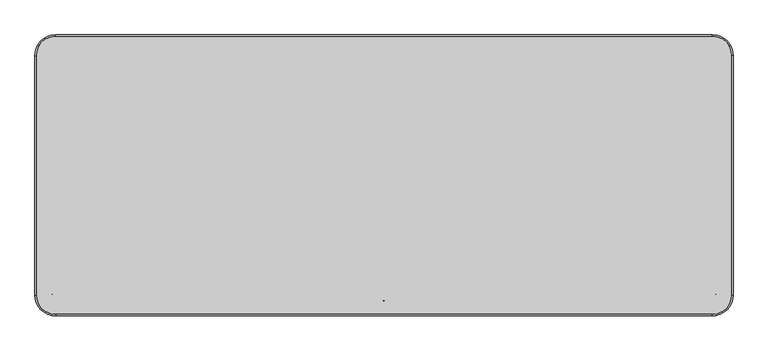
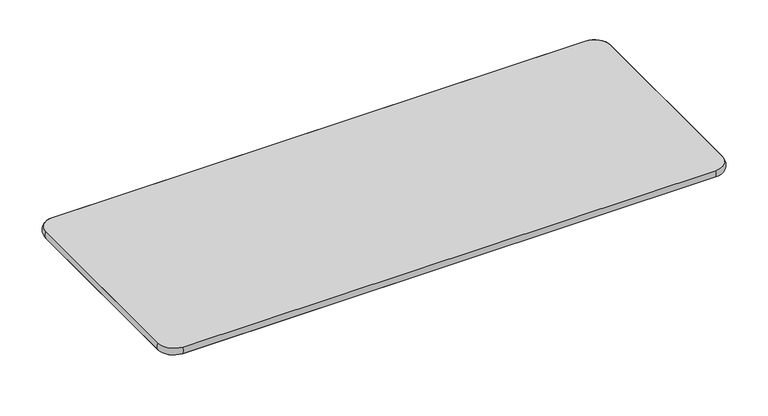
"""IFC4 building model written with IfcOpenShell, lengths in millimetres: furniture geometry, Mesa para refeitório : Mesa para refeitório 150x60cm cód 70470.6."""

from ifc_helpers import new_model, si_unit, point, frame, frame_2d, origin, place, context, project, spatial, polyline, circle_curve, ellipse_curve, trimmed, segment, composite_curve, outline, extrude, source, transform, mapped, element, save
from ifc_brep_helpers import plane_surface, cylinder_surface, revolved_surface, advanced_brep


def furniture_b150109e(model_context):
    return source(origin(), model_context, "Body", "SolidModel", [
        extrude(outline(composite_curve([segment(polyline([(-655.6618953, -42.5875081), (-717.0206397, -256.5708799), (-729.5170418, -252.9875943)]), True, "CONTINUOUS"), segment(trimmed(circle_curve(frame_2d((-728.138855, -248.1812858)), 5.0), [point((-729.5170418, -252.9875943))], [point((-732.9451635, -246.803099))], False, "CARTESIAN"), True, "CONTINUOUS"), segment(polyline([(-732.9451635, -246.803099), (-674.3872851, -42.5875081), (-655.6618953, -42.5875081)]), True, "CONTINUOUS")], self_intersect=False)), frame((0.0, 0.0, 740.0), z_axis=(0.0, 0.0, 1.0), x_axis=(1.0, 0.0, 0.0)), (0.0, 0.0, 1.0), 2.0),
        extrude(outline(composite_curve([segment(polyline([(655.6618953, 42.5875081), (717.0206397, 256.5708799), (729.5170418, 252.9875943)]), True, "CONTINUOUS"), segment(trimmed(circle_curve(frame_2d((728.138855, 248.1812858)), 5.0), [point((729.5170418, 252.9875943))], [point((732.9451635, 246.803099))], False, "CARTESIAN"), True, "CONTINUOUS"), segment(polyline([(732.9451635, 246.803099), (674.3872851, 42.5875081), (655.6618953, 42.5875081)]), True, "CONTINUOUS")], self_intersect=False)), frame((0.0, 0.0, 740.0), z_axis=(0.0, 0.0, 1.0), x_axis=(1.0, 0.0, 0.0)), (0.0, 0.0, 1.0), 2.0),
        extrude(outline(composite_curve([segment(polyline([(655.6618953, -42.5875081), (674.3872851, -42.5875081), (732.9451635, -246.803099)]), True, "CONTINUOUS"), segment(trimmed(circle_curve(frame_2d((728.138855, -248.1812858)), 5.0), [point((732.9451635, -246.803099))], [point((729.5170418, -252.9875943))], False, "CARTESIAN"), True, "CONTINUOUS"), segment(polyline([(729.5170418, -252.9875943), (717.0206397, -256.5708799), (655.6618953, -42.5875081)]), True, "CONTINUOUS")], self_intersect=False)), frame((0.0, 0.0, 740.0), z_axis=(0.0, 0.0, 1.0), x_axis=(1.0, 0.0, 0.0)), (0.0, 0.0, 1.0), 2.0),
        extrude(outline(composite_curve([segment(polyline([(655.6618953, -42.5875081), (673.7270534, -42.5875081), (673.7270534, -140.8530223)]), True, "CONTINUOUS"), segment(trimmed(circle_curve(frame_2d((668.7270534, -140.8530223)), 5.0), [point((673.7270534, -140.8530223))], [point((668.7270534, -145.8530223))], False, "CARTESIAN"), True, "CONTINUOUS"), segment(polyline([(668.7270534, -145.8530223), (655.6618953, -145.8530223), (655.6618953, -42.5875081)]), True, "CONTINUOUS")], self_intersect=False)), frame((0.0, 0.0, 740.0), z_axis=(0.0, 0.0, 1.0), x_axis=(1.0, 0.0, 0.0)), (0.0, 0.0, 1.0), 2.0),
        extrude(outline(polyline([(-649.6955742, 28.681337), (-649.6955742, -28.681337), (-651.5529394, -28.1300623), (-651.5529394, 28.1300623), (-649.6955742, 28.681337)])), frame((0.0, 0.0, 682.0), z_axis=(0.0, 0.0, 1.0), x_axis=(1.0, 0.0, 0.0)), (0.0, 0.0, 1.0), 60.0),
        extrude(outline(composite_curve([segment(polyline([(-60.1181829, 0.0), (0.0, 0.0), (0.0, -229.4943371)]), True, "CONTINUOUS"), segment(trimmed(circle_curve(frame_2d((-8.0489664, -229.4943371)), 8.0489664), [point((0.0, -229.4943371))], [point((-15.3438074, -232.8959773))], False, "CARTESIAN"), True, "CONTINUOUS"), segment(polyline([(-15.3438074, -232.8959773), (-60.1181829, 0.0)]), True, "CONTINUOUS")], self_intersect=False)), frame((-649.6955742, -28.681337, 742.0), z_axis=(-0.961261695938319, 0.2756373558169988, 0.0), x_axis=(0.0, 0.0, 1.0)), (0.0, 0.0, 1.0), 1.932216),
        extrude(outline(composite_curve([segment(polyline([(60.1181829, 0.0), (15.3438074, -232.8959773)]), True, "CONTINUOUS"), segment(trimmed(circle_curve(frame_2d((8.0489664, -229.4943371)), 8.0489664), [point((15.3438074, -232.8959773))], [point((0.0, -229.4943371))], False, "CARTESIAN"), True, "CONTINUOUS"), segment(polyline([(0.0, -229.4943371), (0.0, 0.0), (60.1181829, 0.0)]), True, "CONTINUOUS")], self_intersect=False)), frame((651.5162894, 28.1300623, 742.0), z_axis=(-0.961261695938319, 0.2756373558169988, 0.0), x_axis=(0.0, 0.0, -1.0)), (0.0, 0.0, 1.0), 2.0),
        extrude(outline(polyline([(649.593766, 28.681337), (651.5162894, 28.1300623), (651.5162894, -28.1300623), (649.593766, -28.681337), (649.593766, 28.681337)])), frame((0.0, 0.0, 682.0), z_axis=(0.0, 0.0, 1.0), x_axis=(1.0, 0.0, 0.0)), (0.0, 0.0, 1.0), 60.0),
        extrude(outline(composite_curve([segment(polyline([(-2.0, -20.0), (-2.0, -266.247878), (-15.0, -266.247878)]), True, "CONTINUOUS"), segment(trimmed(circle_curve(frame_2d((-15.0, -261.247878)), 5.0), [point((-15.0, -266.247878))], [point((-20.0, -261.247878))], False, "CARTESIAN"), True, "CONTINUOUS"), segment(polyline([(-20.0, -261.247878), (-20.0, -20.0), (-2.0, -20.0)]), True, "CONTINUOUS")], self_intersect=False)), frame((0.0, 0.0, 740.0), z_axis=(0.0, 0.0, 1.0), x_axis=(1.0, 0.0, 0.0)), (0.0, 0.0, 1.0), 2.0),
        extrude(outline(composite_curve([segment(polyline([(-20.0, 683.2373612), (-266.247878, 726.6561926)]), True, "CONTINUOUS"), segment(trimmed(circle_curve(frame_2d((-262.8462378, 733.9510336)), 8.0489664), [point((-266.247878, 726.6561926))], [point((-262.8462378, 742.0))], False, "CARTESIAN"), True, "CONTINUOUS"), segment(polyline([(-262.8462378, 742.0), (-20.0, 742.0), (-20.0, 683.2373612)]), True, "CONTINUOUS")], self_intersect=False)), frame((-2.0, 0.0, 0.0), z_axis=(1.0, 0.0, 0.0), x_axis=(0.0, 1.0, 0.0)), (0.0, 0.0, 1.0), 2.0),
        extrude(outline(composite_curve([segment(polyline([(0.0, 0.0), (237.1608757, 0.0)]), True, "CONTINUOUS"), segment(trimmed(circle_curve(frame_2d((235.1976245, -7.8058636)), 8.0489664), [point((237.1608757, 0.0))], [point((236.7172151, -15.7100843))], False, "CARTESIAN"), True, "CONTINUOUS"), segment(polyline([(236.7172151, -15.7100843), (11.3499079, -59.0370689), (0.0, 0.0)]), True, "CONTINUOUS")], self_intersect=False)), frame((649.593766, -28.681337, 681.8818171), z_axis=(0.9612616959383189, 0.27563735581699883, 0.0), x_axis=(0.2706805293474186, -0.943975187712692, 0.1887932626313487)), (0.0, 0.0, 1.0), 2.0),
        extrude(outline(composite_curve([segment(polyline([(-2.0, 20.0), (-20.0, 20.0), (-20.0, 261.247878)]), True, "CONTINUOUS"), segment(trimmed(circle_curve(frame_2d((-15.0, 261.247878)), 5.0), [point((-20.0, 261.247878))], [point((-15.0, 266.247878))], False, "CARTESIAN"), True, "CONTINUOUS"), segment(polyline([(-15.0, 266.247878), (-2.0, 266.247878), (-2.0, 20.0)]), True, "CONTINUOUS")], self_intersect=False)), frame((0.0, 0.0, 740.0), z_axis=(0.0, 0.0, 1.0), x_axis=(1.0, 0.0, 0.0)), (0.0, 0.0, 1.0), 2.0),
        extrude(outline(composite_curve([segment(polyline([(20.0, 683.2373612), (20.0, 742.0), (262.8462378, 742.0)]), True, "CONTINUOUS"), segment(trimmed(circle_curve(frame_2d((262.8462378, 733.9510336)), 8.0489664), [point((262.8462378, 742.0))], [point((266.247878, 726.6561926))], False, "CARTESIAN"), True, "CONTINUOUS"), segment(polyline([(266.247878, 726.6561926), (20.0, 683.2373612)]), True, "CONTINUOUS")], self_intersect=False)), frame((-2.0, 0.0, 0.0), z_axis=(1.0, 0.0, 0.0), x_axis=(0.0, 1.0, 0.0)), (0.0, 0.0, 1.0), 2.0),
        extrude(outline(polyline([(650.0651581, -20.0), (-650.0651581, -20.0), (-650.0651581, 20.0), (650.0651581, 20.0), (650.0651581, -20.0)])), frame((0.0, 0.0, 682.0), z_axis=(0.0, 0.0, 1.0), x_axis=(1.0, 0.0, 0.0)), (0.0, 0.0, 1.0), 60.0),
        advanced_brep(
        [(750.0, -258.1259063, 760.0), (708.1259063, -300.0, 760.0), (708.1259063, -300.0, 742.0), (750.0, -258.1259063, 742.0), (750.0, 258.1259063, 742.0), (750.0, 258.1259063, 760.0), (708.1259063, 300.0, 760.0), (708.1259063, 300.0, 742.0), (-708.2277145, 300.0, 742.0), (-708.2277145, 300.0, 760.0), (-750.0, 258.2277145, 760.0), (-750.0, 258.2277145, 742.0), (-750.0, -258.2277145, 742.0), (-750.0, -258.2277145, 760.0), (-708.2277145, -300.0, 760.0), (-708.2277145, -300.0, 742.0)],
        [
            (0, 1, circle_curve(frame((708.1259063, -258.1259063, 760.0), z_axis=(0.0, 0.0, -1.0), x_axis=(0.0, -1.0, 0.0)), 41.8740937)),
            (1, 2, circle_curve(frame((708.1259063, -286.6032084, 751.0), z_axis=(1.0, 0.0, 0.0), x_axis=(0.0, 1.0, 0.0)), 16.1392077)),
            (2, 3, circle_curve(frame((708.1259063, -258.1259063, 742.0), z_axis=(0.0, 0.0, 1.0), x_axis=(0.0, -1.0, 0.0)), 41.8740937)),
            (3, 0, circle_curve(frame((736.6032084, -258.1259063, 751.0), z_axis=(0.0, -1.0, 0.0), x_axis=(-1.0, 0.0, 0.0)), 16.1392077)),
            (2, 1),
            (0, 3),
            (3, 4),
            (4, 5, circle_curve(frame((736.6032084, 258.1259063, 751.0), z_axis=(0.0, -1.0, 0.0), x_axis=(-1.0, 0.0, 0.0)), 16.1392077)),
            (5, 0),
            (5, 4),
            (6, 5, circle_curve(frame((708.1259063, 258.1259063, 760.0), z_axis=(0.0, 0.0, -1.0), x_axis=(1.0, 0.0, 0.0)), 41.8740937)),
            (4, 7, circle_curve(frame((708.1259063, 258.1259063, 742.0), z_axis=(0.0, 0.0, 1.0), x_axis=(1.0, 0.0, 0.0)), 41.8740937)),
            (7, 6, circle_curve(frame((708.1259063, 286.6032084, 751.0), z_axis=(1.0, 0.0, 0.0), x_axis=(0.0, -1.0, 0.0)), 16.1392077)),
            (6, 7),
            (7, 8),
            (8, 9, circle_curve(frame((-708.2277145, 286.6032084, 751.0), z_axis=(1.0, 0.0, 0.0), x_axis=(0.0, -1.0, 0.0)), 16.1392077)),
            (9, 6),
            (9, 8),
            (10, 9, circle_curve(frame((-708.2277145, 258.2277145, 760.0), z_axis=(0.0, 0.0, -1.0), x_axis=(0.0, 1.0, 0.0)), 41.7722855)),
            (8, 11, circle_curve(frame((-708.2277145, 258.2277145, 742.0), z_axis=(0.0, 0.0, 1.0), x_axis=(0.0, 1.0, 0.0)), 41.7722855)),
            (11, 10, circle_curve(frame((-736.6032084, 258.2277145, 751.0), z_axis=(0.0, 1.0, 0.0), x_axis=(1.0, 0.0, 0.0)), 16.1392077)),
            (10, 11),
            (11, 12),
            (12, 13, circle_curve(frame((-736.6032084, -258.2277145, 751.0), z_axis=(0.0, 1.0, 0.0), x_axis=(1.0, 0.0, 0.0)), 16.1392077)),
            (13, 10),
            (13, 12),
            (14, 13, circle_curve(frame((-708.2277145, -258.2277145, 760.0), z_axis=(0.0, 0.0, -1.0), x_axis=(-1.0, 0.0, 0.0)), 41.7722855)),
            (12, 15, circle_curve(frame((-708.2277145, -258.2277145, 742.0), z_axis=(0.0, 0.0, 1.0), x_axis=(-1.0, 0.0, 0.0)), 41.7722855)),
            (15, 14, circle_curve(frame((-708.2277145, -286.6032084, 751.0), z_axis=(-1.0, 0.0, 0.0), x_axis=(0.0, 1.0, 0.0)), 16.1392077)),
            (14, 15),
            (15, 2),
            (1, 14),
        ],
        [
            revolved_surface(trimmed(ellipse_curve(frame((708.1259063, -286.6032084, 751.0), z_axis=(-1.0, 0.0, 0.0), x_axis=(0.0, 1.0, 0.0)), 16.1392077, 16.1392077), [point((708.1259063, -300.0, 742.0))], [point((708.1259063, -300.0, 760.0))], True, "CARTESIAN"), (708.1259063, -258.1259063, 760.0), (0.0, 0.0, 1.0)),
            revolved_surface(polyline([(708.1259063, -300.0, 760.0), (708.1259063, -300.0, 742.0)]), (708.1259063, -258.1259063, 760.0), (0.0, 0.0, 1.0)),
            cylinder_surface(frame((736.6032084, -258.1259063, 751.0), z_axis=(0.0, -1.0, 0.0), x_axis=(-1.0, 0.0, 0.0)), 16.1392077),
            plane_surface(frame((750.0, -258.1259063, 760.0), z_axis=(-1.0, 0.0, 0.0), x_axis=(0.0, 1.0, 0.0))),
            revolved_surface(trimmed(ellipse_curve(frame((736.6032084, 258.1259063, 751.0), z_axis=(0.0, -1.0, 0.0), x_axis=(-1.0, 0.0, 0.0)), 16.1392077, 16.1392077), [point((750.0, 258.1259063, 742.0))], [point((750.0, 258.1259063, 760.0))], True, "CARTESIAN"), (708.1259063, 258.1259063, 760.0), (0.0, 0.0, 1.0)),
            revolved_surface(polyline([(750.0, 258.1259063, 760.0), (750.0, 258.1259063, 742.0)]), (708.1259063, 258.1259063, 760.0), (0.0, 0.0, 1.0)),
            cylinder_surface(frame((708.1259063, 286.6032084, 751.0), z_axis=(1.0, 0.0, 0.0), x_axis=(0.0, -1.0, 0.0)), 16.1392077),
            plane_surface(frame((708.1259063, 300.0, 760.0), z_axis=(0.0, -1.0, 0.0), x_axis=(-1.0, 0.0, 0.0))),
            revolved_surface(trimmed(ellipse_curve(frame((-708.2277145, 286.6032084, 751.0), z_axis=(1.0, 0.0, 0.0), x_axis=(0.0, -1.0, 0.0)), 16.1392077, 16.1392077), [point((-708.2277145, 300.0, 742.0))], [point((-708.2277145, 300.0, 760.0))], True, "CARTESIAN"), (-708.2277145, 258.2277145, 760.0), (0.0, 0.0, 1.0)),
            revolved_surface(polyline([(-708.2277145, 300.0, 760.0), (-708.2277145, 300.0, 742.0)]), (-708.2277145, 258.2277145, 760.0), (0.0, 0.0, 1.0)),
            cylinder_surface(frame((-736.6032084, 258.2277145, 751.0), z_axis=(0.0, 1.0, 0.0), x_axis=(1.0, 0.0, 0.0)), 16.1392077),
            plane_surface(frame((-750.0, 258.2277145, 760.0), z_axis=(1.0, 0.0, 0.0), x_axis=(0.0, -1.0, 0.0))),
            revolved_surface(trimmed(ellipse_curve(frame((-736.6032084, -258.2277145, 751.0), z_axis=(0.0, 1.0, 0.0), x_axis=(1.0, 0.0, 0.0)), 16.1392077, 16.1392077), [point((-750.0, -258.2277145, 742.0))], [point((-750.0, -258.2277145, 760.0))], True, "CARTESIAN"), (-708.2277145, -258.2277145, 760.0), (0.0, 0.0, 1.0)),
            revolved_surface(polyline([(-750.0, -258.2277145, 760.0), (-750.0, -258.2277145, 742.0)]), (-708.2277145, -258.2277145, 760.0), (0.0, 0.0, 1.0)),
            cylinder_surface(frame((-708.2277145, -286.6032084, 751.0), z_axis=(-1.0, 0.0, 0.0), x_axis=(0.0, 1.0, 0.0)), 16.1392077),
            plane_surface(frame((-708.2277145, -300.0, 760.0), z_axis=(0.0, 1.0, 0.0), x_axis=(1.0, 0.0, 0.0))),
        ],
        [
            (0, [[1, 2, 3, 4]]),
            (1, [[-3, 5, -1, 6]]),
            (2, [[-4, 7, 8, 9]]),
            (3, [[-6, -9, 10, -7]]),
            (4, [[11, -8, 12, 13]]),
            (5, [[-12, -10, -11, 14]]),
            (6, [[-13, 15, 16, 17]]),
            (7, [[-14, -17, 18, -15]]),
            (8, [[19, -16, 20, 21]]),
            (9, [[-20, -18, -19, 22]]),
            (10, [[-21, 23, 24, 25]]),
            (11, [[-22, -25, 26, -23]]),
            (12, [[27, -24, 28, 29]]),
            (13, [[-28, -26, -27, 30]]),
            (14, [[-29, 31, -2, 32]]),
            (15, [[-30, -32, -5, -31]]),
        ],
    ),
        extrude(outline(composite_curve([segment(trimmed(circle_curve(frame_2d((708.1259063, 258.1259063)), 41.8740937), [point((708.1259063, 300.0))], [point((750.0, 258.1259063))], False, "CARTESIAN"), True, "CONTINUOUS"), segment(polyline([(750.0, 258.1259063), (750.0, -258.1259063)]), True, "CONTINUOUS"), segment(trimmed(circle_curve(frame_2d((708.1259063, -258.1259063)), 41.8740937), [point((750.0, -258.1259063))], [point((708.1259063, -300.0))], False, "CARTESIAN"), True, "CONTINUOUS"), segment(polyline([(708.1259063, -300.0), (-708.2277145, -300.0)]), True, "CONTINUOUS"), segment(trimmed(circle_curve(frame_2d((-708.2277145, -258.2277145)), 41.7722855), [point((-708.2277145, -300.0))], [point((-750.0, -258.2277145))], False, "CARTESIAN"), True, "CONTINUOUS"), segment(polyline([(-750.0, -258.2277145), (-750.0, 258.2277145)]), True, "CONTINUOUS"), segment(trimmed(circle_curve(frame_2d((-708.2277145, 258.2277145)), 41.7722855), [point((-750.0, 258.2277145))], [point((-708.2277145, 300.0))], False, "CARTESIAN"), True, "CONTINUOUS"), segment(polyline([(-708.2277145, 300.0), (708.1259063, 300.0)]), True, "CONTINUOUS")], self_intersect=False)), frame((0.0, 0.0, 742.0), z_axis=(0.0, 0.0, 1.0), x_axis=(1.0, 0.0, 0.0)), (0.0, 0.0, 1.0), 18.0),
    ])


if __name__ == "__main__":
    model = new_model("IFC4")
    model_context = context("Model", 3, world=origin())
    ifc_project = project(units=[si_unit("LENGTHUNIT", "METRE", prefix="MILLI")], contexts=[model_context])
    site = spatial("IfcSite", under=ifc_project)
    building = spatial("IfcBuilding", under=site)
    placement = place(None, origin())
    furniture_shape = furniture_b150109e(model_context)
    element("IfcFurniture", 1, ObjectType="Mesa para refeitório : Mesa para refeitório 150x60cm cód 70470.6", at=placement, inside=building, context=model_context, shape_type="MappedRepresentation", body=[
        mapped(furniture_shape, transform((0.0, 0.0, 0.0), x_axis=(1.0, 0.0, 0.0), y_axis=(0.0, 1.0, 0.0), z_axis=(0.0, 0.0, 1.0))),
    ])
    save(model, "model.ifc")
